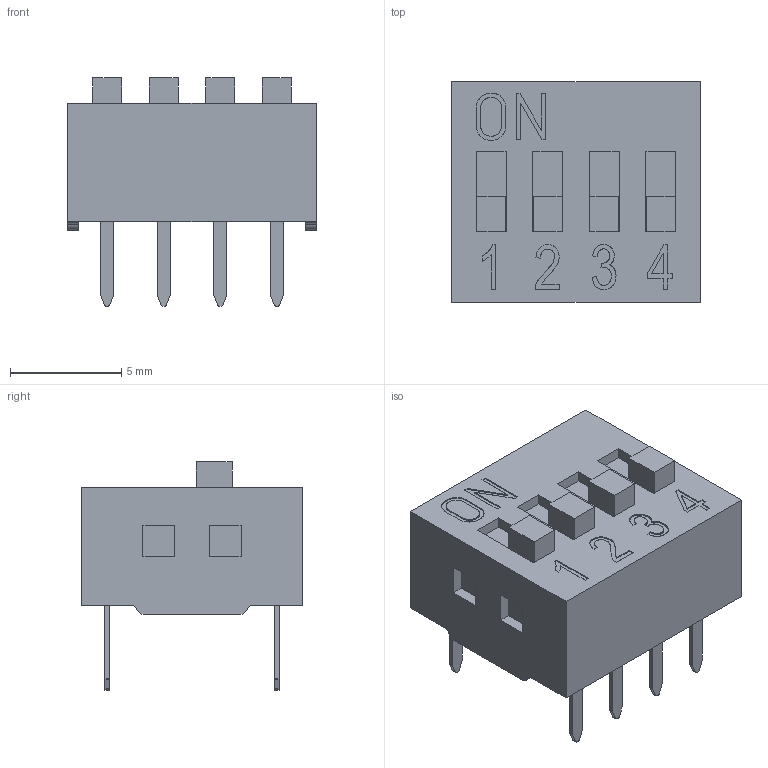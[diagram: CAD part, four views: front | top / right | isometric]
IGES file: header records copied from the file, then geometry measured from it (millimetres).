
Global section: file name: Filename.iges; native system: Open CASCADE 7.3; preprocessor: Open CASCADE IGES processor 7.3; date: 20200811.075220; units: millimetre
Bounding box: 11.16 x 9.9 x 10.25 mm (x, y, z)
Surface area: 1308 mm2 (no closed solid volume)
Topology: 0 solids, 0 shells, 340 faces, 1752 edges, 1752 vertices
Faces by surface type: plane 265, revolution 40, bspline 35
